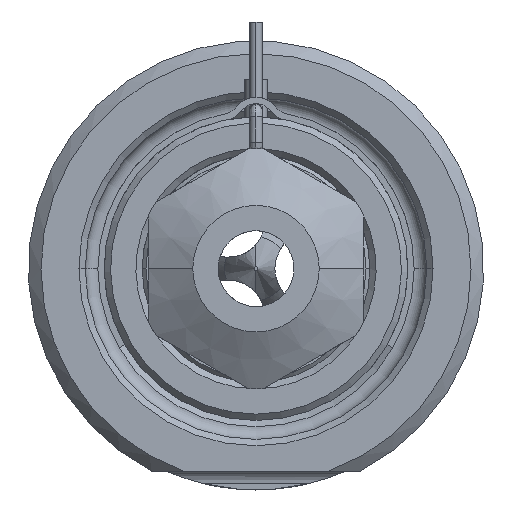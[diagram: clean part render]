
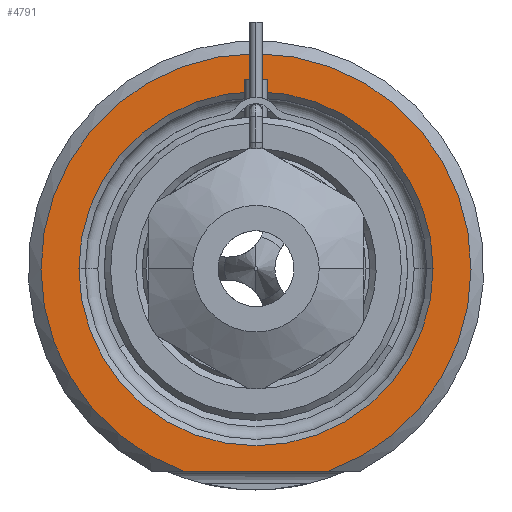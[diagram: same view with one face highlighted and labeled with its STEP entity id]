
A CAD part, front view. The second image highlights one B-rep face of the part: STEP entity #4791.
In plain terms, the highlighted planar face has unit normal (0, -1, 0).
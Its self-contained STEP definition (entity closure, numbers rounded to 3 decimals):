
#1241=CARTESIAN_POINT('',(0.,0.,0.));
#1242=DIRECTION('',(0.,-1.,0.));
#1243=DIRECTION('',(0.338,0.,-0.941));
#1244=AXIS2_PLACEMENT_3D('',#1241,#1242,#1243);
#1265=DIRECTION('',(1.,0.,0.));
#1266=VECTOR('',#1265,11.489);
#1267=CARTESIAN_POINT('',(-5.745,0.,-16.));
#1268=LINE('',#1267,#1266);
#1269=CARTESIAN_POINT('',(0.,0.,0.));
#1270=DIRECTION('',(0.,1.,0.));
#1271=DIRECTION('',(-1.,0.,0.));
#1272=AXIS2_PLACEMENT_3D('',#1269,#1270,#1271);
#1274=CARTESIAN_POINT('',(0.,0.,0.));
#1275=DIRECTION('',(0.,1.,0.));
#1276=DIRECTION('',(1.,0.,0.));
#1277=AXIS2_PLACEMENT_3D('',#1274,#1275,#1276);
#3008=CARTESIAN_POINT('',(-14.,0.,0.));
#3009=CARTESIAN_POINT('',(14.,0.,0.));
#3010=VERTEX_POINT('',#3008);
#3011=VERTEX_POINT('',#3009);
#3048=CARTESIAN_POINT('',(-5.745,0.,-16.));
#3049=CARTESIAN_POINT('',(5.745,0.,-16.));
#3050=VERTEX_POINT('',#3048);
#3051=VERTEX_POINT('',#3049);
#4776=CARTESIAN_POINT('',(0.,0.,0.));
#4777=DIRECTION('',(0.,-1.,0.));
#4778=DIRECTION('',(1.,0.,0.));
#4779=AXIS2_PLACEMENT_3D('',#4776,#4777,#4778);
#4780=PLANE('',#4779);
#4781=ORIENTED_EDGE('',*,*,#4708,.F.);
#4782=ORIENTED_EDGE('',*,*,#4768,.F.);
#4783=EDGE_LOOP('',(#4781,#4782));
#4784=FACE_OUTER_BOUND('',#4783,.F.);
#4786=ORIENTED_EDGE('',*,*,#4785,.F.);
#4788=ORIENTED_EDGE('',*,*,#4787,.F.);
#4789=EDGE_LOOP('',(#4786,#4788));
#4790=FACE_BOUND('',#4789,.F.);
#4791=ADVANCED_FACE('',(#4784,#4790),#4780,.T.);
#1245=CIRCLE('',#1244,17.);
#1273=CIRCLE('',#1272,14.);
#1278=CIRCLE('',#1277,14.);
#4708=EDGE_CURVE('',#3050,#3051,#1268,.T.);
#4768=EDGE_CURVE('',#3051,#3050,#1245,.T.);
#4785=EDGE_CURVE('',#3010,#3011,#1273,.T.);
#4787=EDGE_CURVE('',#3011,#3010,#1278,.T.);
